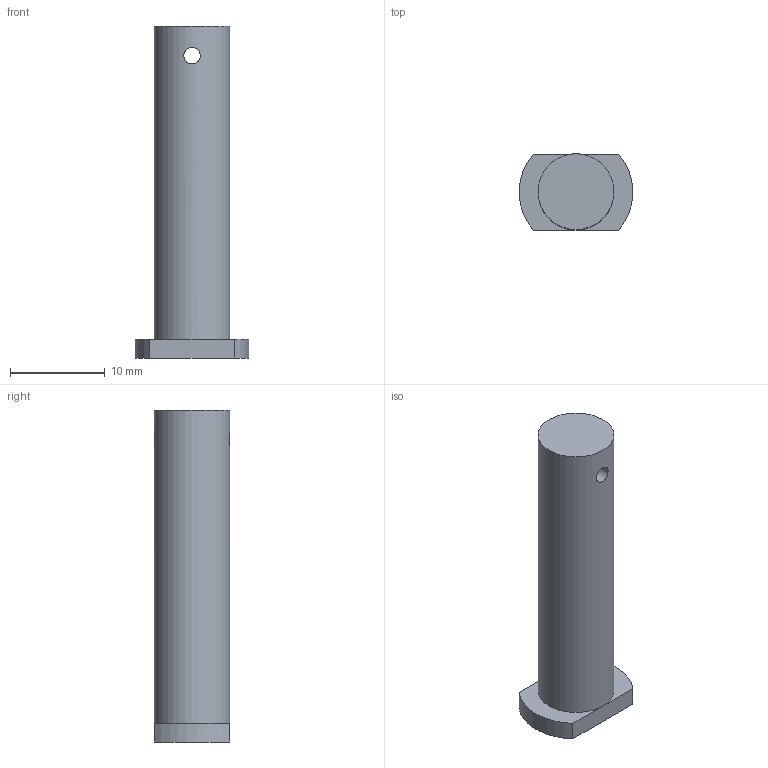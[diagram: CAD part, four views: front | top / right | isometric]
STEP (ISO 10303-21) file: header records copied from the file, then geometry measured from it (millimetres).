
FILE_DESCRIPTION((''),'2;1');
FILE_NAME('C:\Users\JamesRPatrick\Documents\Autodesk\PM422\STEP2.0\PM422HammerPin2.stp','2015-08-22T19:00:49',('JamesRPatrick'),(''),'Autodesk Inventor 2012','Autodesk Inventor 2012','');
FILE_SCHEMA(('AUTOMOTIVE_DESIGN { 1 0 10303 214 1 1 1 1 }'));
Length unit declared in the file: millimetre
Products named in the file (1): PM422HammerPin2
Bounding box: 11.96 x 8 x 35 mm (x, y, z)
Volume: 1816.3 mm3; surface area: 1115.4 mm2
Topology: 1 solids, 1 shells, 10 faces, 25 edges, 16 vertices
Faces by surface type: plane 6, cylinder 4
Full cylindrical faces by diameter (mm): 1.75 x1, 8 x1
Entity records: 350 total; most frequent: CARTESIAN_POINT 109, DIRECTION 46, ORIENTED_EDGE 38, EDGE_CURVE 19, AXIS2_PLACEMENT_3D 18, EDGE_LOOP 14, VERTEX_POINT 13, FACE_OUTER_BOUND 10
